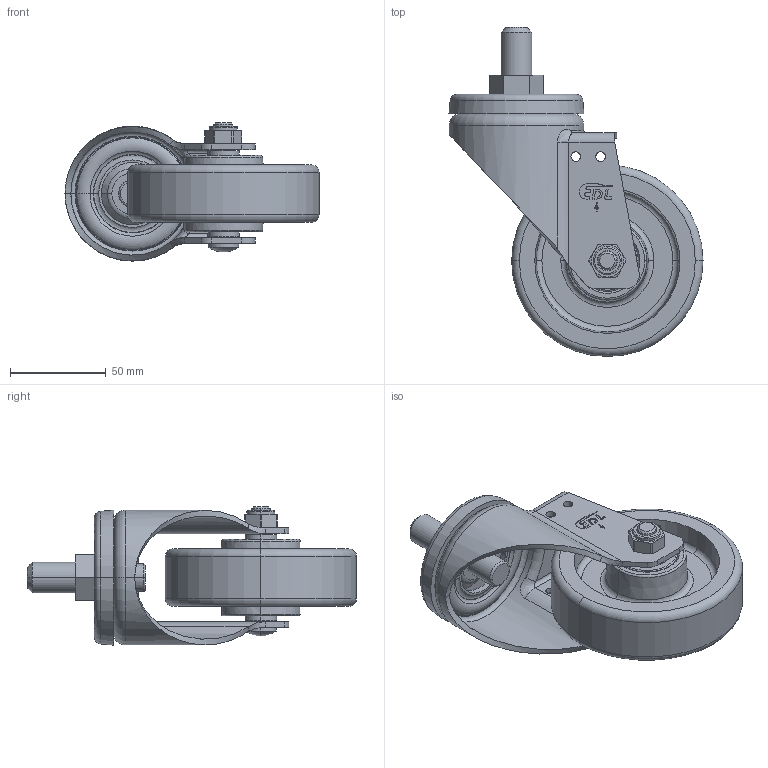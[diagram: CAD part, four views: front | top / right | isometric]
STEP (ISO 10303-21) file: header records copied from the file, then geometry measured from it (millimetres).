
FILE_DESCRIPTION((''),'2;1');
FILE_NAME('66134M16X25_ASM_1_ASM','2024-04-27T',('Lenovo'),(''),'PRO/ENGINEER BY PARAMETRIC TECHNOLOGY CORPORATION, 2010280','PRO/ENGINEER BY PARAMETRIC TECHNOLOGY CORPORATION, 2010280','');
FILE_SCHEMA(('CONFIG_CONTROL_DESIGN'));
Length unit declared in the file: millimetre
Products named in the file (26): 6614-311_2; 6610-251_1; 6610-053M16X25_2; 674-986AA_3; MANIFOLD_SOLID_BREP_13313; MANIFOLD_SOLID_BREP_13681; MANIFOLD_SOLID_BREP_13719; MANIFOLD_SOLID_BREP_13757; MANIFOLD_SOLID_BREP_13795; MANIFOLD_SOLID_BREP_13833; MANIFOLD_SOLID_BREP_13871; MANIFOLD_SOLID_BREP_13909; MANIFOLD_SOLID_BREP_13947; MANIFOLD_SOLID_BREP_13985; MANIFOLD_SOLID_BREP_14023; MANIFOLD_SOLID_BREP_14061; MANIFOLD_SOLID_BREP_14099; MANIFOLD_SOLID_BREP_14137; MANIFOLD_SOLID_BREP_14175; 6201_1_ASM; 500-66_3; 630-54A_1; 674-86A_ASM_1_ASM; 630-33A_3; 630-34_4; 66134M16X25_ASM_1_ASM
Assembly tree (27 placements, depth 4):
  66134M16X25_ASM_1_ASM
    6614-311_2
    6610-251_1
    6610-053M16X25_2
    674-86A_ASM_1_ASM
      674-986AA_3
      6201_1_ASM  x2
        MANIFOLD_SOLID_BREP_13313
        MANIFOLD_SOLID_BREP_13681
        MANIFOLD_SOLID_BREP_13719
        MANIFOLD_SOLID_BREP_13757
        MANIFOLD_SOLID_BREP_13795
        MANIFOLD_SOLID_BREP_13833
        MANIFOLD_SOLID_BREP_13871
        MANIFOLD_SOLID_BREP_13909
        MANIFOLD_SOLID_BREP_13947
        MANIFOLD_SOLID_BREP_13985
        MANIFOLD_SOLID_BREP_14023
        MANIFOLD_SOLID_BREP_14061
        MANIFOLD_SOLID_BREP_14099
        MANIFOLD_SOLID_BREP_14137
        MANIFOLD_SOLID_BREP_14175
      500-66_3  x2
      630-54A_1
    630-33A_3
    630-34_4
Bounding box: 132.79 x 172 x 72.29 mm (x, y, z)
Volume: 237532.2 mm3; surface area: 99422.7 mm2
Topology: 39 solids, 39 shells, 454 faces, 1164 edges, 699 vertices
Faces by surface type: plane 125, cylinder 110, torus 87, sphere 80, cone 44, bspline 8
Entity records: 13241 total; most frequent: CARTESIAN_POINT 3397, DIRECTION 2252, ORIENTED_EDGE 1812, AXIS2_PLACEMENT_3D 957, EDGE_CURVE 906, VERTEX_POINT 590, CIRCLE 510, EDGE_LOOP 430
